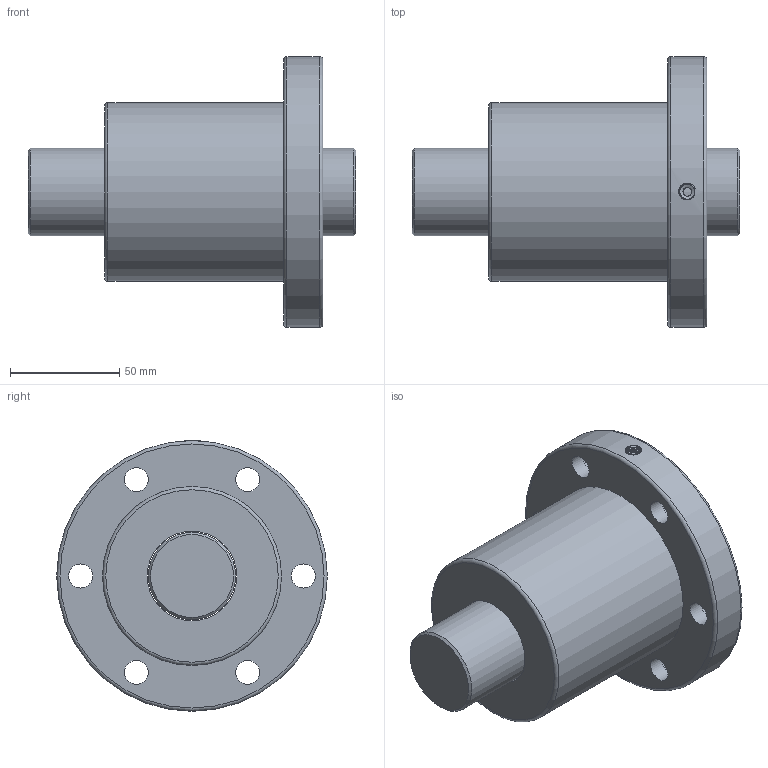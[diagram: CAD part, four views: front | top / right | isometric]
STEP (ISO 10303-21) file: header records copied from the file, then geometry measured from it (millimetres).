
FILE_DESCRIPTION (( 'STEP AP203' ), '1' );
FILE_NAME ('SFV04020-2.7.STEP', '2023-08-16T03:38:01', ( '' ), ( '' ), 'SwSTEP 2.0', 'SolidWorks 2022', '' );
FILE_SCHEMA (( 'CONFIG_CONTROL_DESIGN' ));
Length unit declared in the file: millimetre
Products named in the file (1): SFV04020-2.7
Bounding box: 150 x 124 x 124 mm (x, y, z)
Volume: 685628.2 mm3; surface area: 87692.1 mm2
Topology: 2 solids, 2 shells, 40 faces, 80 edges, 51 vertices
Faces by surface type: cylinder 20, plane 12, cone 3, torus 3, bspline 2
Full cylindrical faces by diameter (mm): 4 x1, 6.917 x1, 11 x6, 17.5 x6, 40 x1, 41 x1, 82 x1, 124 x1
Entity records: 2840 total; most frequent: CARTESIAN_POINT 2006, DIRECTION 162, ORIENTED_EDGE 106, EDGE_LOOP 87, AXIS2_PLACEMENT_3D 81, FACE_OUTER_BOUND 61, EDGE_CURVE 53, VERTEX_POINT 48
